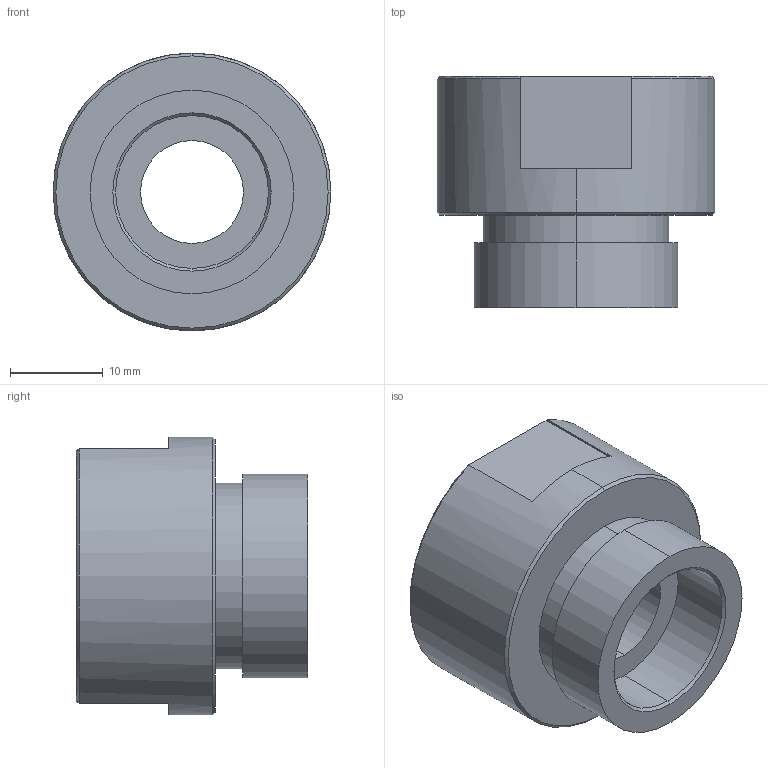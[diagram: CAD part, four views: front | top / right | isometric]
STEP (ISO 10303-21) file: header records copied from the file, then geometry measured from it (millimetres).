
FILE_DESCRIPTION (( 'STEP AP203' ), '1' );
FILE_NAME ('125MO-11.1.STEP', '2022-04-13T07:25:14', ( '' ), ( '' ), 'SwSTEP 2.0', 'SolidWorks 2015', '' );
FILE_SCHEMA (( 'CONFIG_CONTROL_DESIGN' ));
Length unit declared in the file: millimetre
Products named in the file (2): 125MO-11.1
Bounding box: 30 x 25 x 30 mm (x, y, z)
Volume: 10696.4 mm3; surface area: 4393.5 mm2
Topology: 1 solids, 1 shells, 29 faces, 68 edges, 44 vertices
Faces by surface type: plane 13, cylinder 10, cone 6
Entity records: 1007 total; most frequent: CARTESIAN_POINT 167, DIRECTION 152, ORIENTED_EDGE 136, EDGE_CURVE 68, AXIS2_PLACEMENT_3D 61, VERTEX_POINT 44, EDGE_LOOP 34, LINE 30
